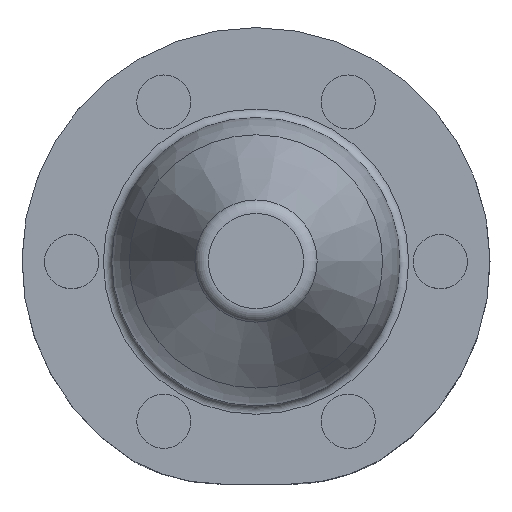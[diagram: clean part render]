
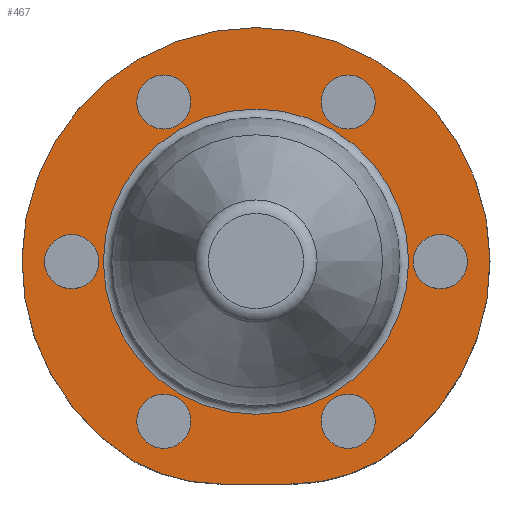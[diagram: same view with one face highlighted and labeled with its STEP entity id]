
A CAD part, top view. The second image highlights one B-rep face of the part: STEP entity #467.
In plain terms, the highlighted planar face has unit normal (0, 0, 1).
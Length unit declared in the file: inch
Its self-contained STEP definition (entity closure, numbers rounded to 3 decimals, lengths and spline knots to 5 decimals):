
#3 = ORIENTED_EDGE ( 'NONE', *, *, #622, .F. ) ;
#15 = FACE_OUTER_BOUND ( 'NONE', #67, .T. ) ;
#24 = CIRCLE ( 'NONE', #569, 0.047 ) ;
#25 = CIRCLE ( 'NONE', #841, 0.047 ) ;
#38 = LINE ( 'NONE', #706, #440 ) ;
#39 = ORIENTED_EDGE ( 'NONE', *, *, #281, .T. ) ;
#41 = CARTESIAN_POINT ( 'NONE',  ( -0.06068, -0.076, -0.015 ) ) ;
#61 = VERTEX_POINT ( 'NONE', #927 ) ;
#67 = EDGE_LOOP ( 'NONE', ( #803, #786, #929, #39 ) ) ;
#68 = DIRECTION ( 'NONE',  ( -0.5, -0.866, 0. ) ) ;
#72 = ORIENTED_EDGE ( 'NONE', *, *, #241, .F. ) ;
#88 = VERTEX_POINT ( 'NONE', #320 ) ;
#94 = AXIS2_PLACEMENT_3D ( 'NONE', #457, #316, #453 ) ;
#130 = EDGE_CURVE ( 'NONE', #709, #709, #252, .T. ) ;
#154 = DIRECTION ( 'NONE',  ( 1., 0., 0. ) ) ;
#159 = ORIENTED_EDGE ( 'NONE', *, *, #507, .F. ) ;
#166 = EDGE_LOOP ( 'NONE', ( #720 ) ) ;
#167 = CARTESIAN_POINT ( 'NONE',  ( 0.113, 0.27713, -0.015 ) ) ;
#172 = AXIS2_PLACEMENT_3D ( 'NONE', #528, #802, #154 ) ;
#181 = CIRCLE ( 'NONE', #229, 0.047 ) ;
#188 = DIRECTION ( 'NONE',  ( 0., 0., 1. ) ) ;
#192 = EDGE_CURVE ( 'NONE', #766, #766, #25, .T. ) ;
#217 = CARTESIAN_POINT ( 'NONE',  ( 0.32, 0., -0.015 ) ) ;
#229 = AXIS2_PLACEMENT_3D ( 'NONE', #217, #432, #860 ) ;
#232 = VERTEX_POINT ( 'NONE', #821 ) ;
#233 = CARTESIAN_POINT ( 'NONE',  ( -0.16, 0.27713, -0.015 ) ) ;
#241 = EDGE_CURVE ( 'NONE', #494, #494, #781, .T. ) ;
#251 = VERTEX_POINT ( 'NONE', #406 ) ;
#252 = CIRCLE ( 'NONE', #172, 0.265 ) ;
#258 = EDGE_LOOP ( 'NONE', ( #923 ) ) ;
#261 = CARTESIAN_POINT ( 'NONE',  ( 0.16, 0.27713, -0.015 ) ) ;
#281 = EDGE_CURVE ( 'NONE', #658, #232, #599, .T. ) ;
#290 = CIRCLE ( 'NONE', #537, 0.047 ) ;
#295 = DIRECTION ( 'NONE',  ( 0., 0., 1. ) ) ;
#309 = CARTESIAN_POINT ( 'NONE',  ( -0.32, 0., -0.015 ) ) ;
#313 = DIRECTION ( 'NONE',  ( 0., 0., 1. ) ) ;
#316 = DIRECTION ( 'NONE',  ( 0., 0., 1. ) ) ;
#320 = CARTESIAN_POINT ( 'NONE',  ( 0.1835, -0.23642, -0.015 ) ) ;
#322 = CIRCLE ( 'NONE', #839, 0.047 ) ;
#326 = EDGE_CURVE ( 'NONE', #683, #658, #38, .T. ) ;
#332 = DIRECTION ( 'NONE',  ( -1., 0., 0. ) ) ;
#369 = CARTESIAN_POINT ( 'NONE',  ( -0.1835, 0.23642, -0.015 ) ) ;
#398 = DIRECTION ( 'NONE',  ( 1., 0., 0. ) ) ;
#406 = CARTESIAN_POINT ( 'NONE',  ( -0.21182, -0.34666, -0.015 ) ) ;
#410 = DIRECTION ( 'NONE',  ( 0., 0., 1. ) ) ;
#432 = DIRECTION ( 'NONE',  ( 0., 0., 1. ) ) ;
#440 = VECTOR ( 'NONE', #398, 39.37008 ) ;
#441 = CIRCLE ( 'NONE', #690, 0.40625 ) ;
#451 = EDGE_LOOP ( 'NONE', ( #825 ) ) ;
#453 = DIRECTION ( 'NONE',  ( 1., 0., 0. ) ) ;
#457 = CARTESIAN_POINT ( 'NONE',  ( 0., 0., -0.015 ) ) ;
#467 = ADVANCED_FACE ( 'NONE', ( #869, #747, #596, #731, #536, #751, #667, #15 ), #930, .T. ) ;
#484 = CARTESIAN_POINT ( 'NONE',  ( 0.265, 0., -0.015 ) ) ;
#489 = CARTESIAN_POINT ( 'NONE',  ( -0.2965, -0.0407, -0.015 ) ) ;
#494 = VERTEX_POINT ( 'NONE', #167 ) ;
#501 = CARTESIAN_POINT ( 'NONE',  ( -0.113, -0.27713, -0.015 ) ) ;
#507 = EDGE_CURVE ( 'NONE', #88, #88, #24, .T. ) ;
#516 = CARTESIAN_POINT ( 'NONE',  ( 0., 0., -0.015 ) ) ;
#528 = CARTESIAN_POINT ( 'NONE',  ( 0., 0., -0.015 ) ) ;
#531 = EDGE_LOOP ( 'NONE', ( #159 ) ) ;
#536 = FACE_BOUND ( 'NONE', #531, .T. ) ;
#537 = AXIS2_PLACEMENT_3D ( 'NONE', #759, #553, #904 ) ;
#553 = DIRECTION ( 'NONE',  ( 0., 0., 1. ) ) ;
#554 = AXIS2_PLACEMENT_3D ( 'NONE', #261, #410, #332 ) ;
#567 = DIRECTION ( 'NONE',  ( 1., 0., 0. ) ) ;
#569 = AXIS2_PLACEMENT_3D ( 'NONE', #696, #823, #761 ) ;
#584 = CIRCLE ( 'NONE', #888, 0.31 ) ;
#593 = VERTEX_POINT ( 'NONE', #501 ) ;
#596 = FACE_BOUND ( 'NONE', #637, .T. ) ;
#599 = CIRCLE ( 'NONE', #657, 0.31 ) ;
#604 = DIRECTION ( 'NONE',  ( 1., 0., 0. ) ) ;
#622 = EDGE_CURVE ( 'NONE', #593, #593, #290, .T. ) ;
#624 = ORIENTED_EDGE ( 'NONE', *, *, #192, .F. ) ;
#637 = EDGE_LOOP ( 'NONE', ( #72 ) ) ;
#657 = AXIS2_PLACEMENT_3D ( 'NONE', #693, #188, #762 ) ;
#658 = VERTEX_POINT ( 'NONE', #919 ) ;
#665 = EDGE_CURVE ( 'NONE', #61, #61, #181, .T. ) ;
#667 = FACE_BOUND ( 'NONE', #258, .T. ) ;
#683 = VERTEX_POINT ( 'NONE', #721 ) ;
#690 = AXIS2_PLACEMENT_3D ( 'NONE', #516, #878, #604 ) ;
#693 = CARTESIAN_POINT ( 'NONE',  ( 0.06068, -0.076, -0.015 ) ) ;
#696 = CARTESIAN_POINT ( 'NONE',  ( 0.16, -0.27713, -0.015 ) ) ;
#706 = CARTESIAN_POINT ( 'NONE',  ( 0., -0.386, -0.015 ) ) ;
#709 = VERTEX_POINT ( 'NONE', #484 ) ;
#720 = ORIENTED_EDGE ( 'NONE', *, *, #665, .F. ) ;
#721 = CARTESIAN_POINT ( 'NONE',  ( -0.06068, -0.386, -0.015 ) ) ;
#722 = VERTEX_POINT ( 'NONE', #369 ) ;
#731 = FACE_BOUND ( 'NONE', #166, .T. ) ;
#733 = EDGE_LOOP ( 'NONE', ( #624 ) ) ;
#747 = FACE_BOUND ( 'NONE', #451, .T. ) ;
#751 = FACE_BOUND ( 'NONE', #898, .T. ) ;
#752 = DIRECTION ( 'NONE',  ( 0.5, -0.866, 0. ) ) ;
#759 = CARTESIAN_POINT ( 'NONE',  ( -0.16, -0.27713, -0.015 ) ) ;
#761 = DIRECTION ( 'NONE',  ( 0.5, 0.866, 0. ) ) ;
#762 = DIRECTION ( 'NONE',  ( 1., 0., 0. ) ) ;
#766 = VERTEX_POINT ( 'NONE', #489 ) ;
#777 = EDGE_CURVE ( 'NONE', #251, #683, #584, .T. ) ;
#781 = CIRCLE ( 'NONE', #554, 0.047 ) ;
#786 = ORIENTED_EDGE ( 'NONE', *, *, #777, .T. ) ;
#802 = DIRECTION ( 'NONE',  ( 0., 0., -1. ) ) ;
#803 = ORIENTED_EDGE ( 'NONE', *, *, #832, .T. ) ;
#805 = EDGE_CURVE ( 'NONE', #722, #722, #322, .T. ) ;
#821 = CARTESIAN_POINT ( 'NONE',  ( 0.21182, -0.34666, -0.015 ) ) ;
#823 = DIRECTION ( 'NONE',  ( 0., 0., 1. ) ) ;
#825 = ORIENTED_EDGE ( 'NONE', *, *, #805, .F. ) ;
#832 = EDGE_CURVE ( 'NONE', #232, #251, #441, .T. ) ;
#839 = AXIS2_PLACEMENT_3D ( 'NONE', #233, #295, #68 ) ;
#841 = AXIS2_PLACEMENT_3D ( 'NONE', #309, #313, #752 ) ;
#860 = DIRECTION ( 'NONE',  ( -0.5, 0.866, 0. ) ) ;
#869 = FACE_BOUND ( 'NONE', #733, .T. ) ;
#878 = DIRECTION ( 'NONE',  ( 0., 0., 1. ) ) ;
#888 = AXIS2_PLACEMENT_3D ( 'NONE', #41, #906, #567 ) ;
#898 = EDGE_LOOP ( 'NONE', ( #3 ) ) ;
#904 = DIRECTION ( 'NONE',  ( 1., 0., 0. ) ) ;
#906 = DIRECTION ( 'NONE',  ( 0., 0., 1. ) ) ;
#919 = CARTESIAN_POINT ( 'NONE',  ( 0.06068, -0.386, -0.015 ) ) ;
#923 = ORIENTED_EDGE ( 'NONE', *, *, #130, .T. ) ;
#927 = CARTESIAN_POINT ( 'NONE',  ( 0.2965, 0.0407, -0.015 ) ) ;
#929 = ORIENTED_EDGE ( 'NONE', *, *, #326, .T. ) ;
#930 = PLANE ( 'NONE',  #94 ) ;
